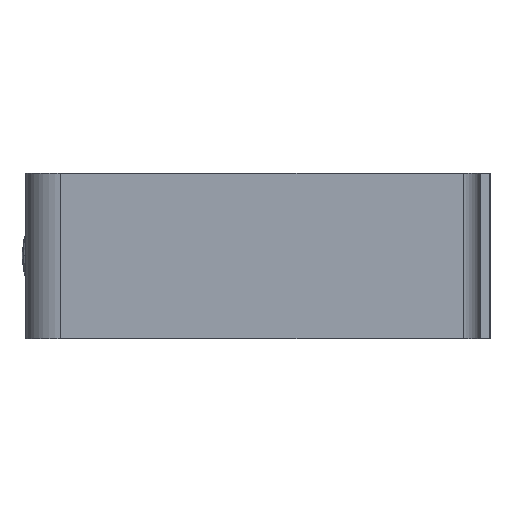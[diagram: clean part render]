
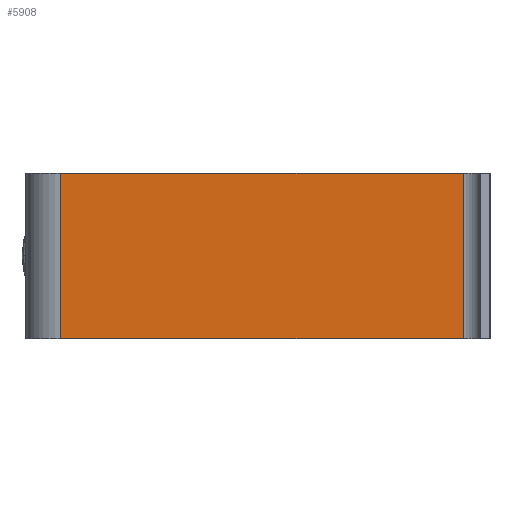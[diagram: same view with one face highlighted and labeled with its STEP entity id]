
A CAD part, left-side view. The second image highlights one B-rep face of the part: STEP entity #5908.
In plain terms, the highlighted planar face has unit normal (-0.999, 0.052, 0).
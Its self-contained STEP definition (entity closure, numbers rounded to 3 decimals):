
#204 = CARTESIAN_POINT ( 'NONE',  ( 14.001, 1.828, 18. ) ) ;
#565 = LINE ( 'NONE', #2636, #3979 ) ;
#720 = ORIENTED_EDGE ( 'NONE', *, *, #6244, .F. ) ;
#1271 = AXIS2_PLACEMENT_3D ( 'NONE', #6309, #4837, #4279 ) ;
#1280 = CARTESIAN_POINT ( 'NONE',  ( 14.001, 1.828, 0. ) ) ;
#1354 = DIRECTION ( 'NONE',  ( 0.052, 0.999, 0. ) ) ;
#1378 = VECTOR ( 'NONE', #3604, 1000. ) ;
#1583 = LINE ( 'NONE', #2188, #4569 ) ;
#1644 = EDGE_CURVE ( 'NONE', #5374, #5750, #6020, .T. ) ;
#1684 = ORIENTED_EDGE ( 'NONE', *, *, #3646, .T. ) ;
#1721 = ORIENTED_EDGE ( 'NONE', *, *, #1644, .F. ) ;
#1958 = CARTESIAN_POINT ( 'NONE',  ( 14.001, 1.828, 18. ) ) ;
#2054 = VERTEX_POINT ( 'NONE', #4247 ) ;
#2188 = CARTESIAN_POINT ( 'NONE',  ( 16.292, 45.544, 18. ) ) ;
#2443 = ORIENTED_EDGE ( 'NONE', *, *, #5651, .T. ) ;
#2636 = CARTESIAN_POINT ( 'NONE',  ( 14.001, 1.828, 0. ) ) ;
#2661 = VECTOR ( 'NONE', #1354, 1000. ) ;
#3103 = EDGE_LOOP ( 'NONE', ( #720, #1721, #1684, #2443 ) ) ;
#3383 = CARTESIAN_POINT ( 'NONE',  ( 16.292, 45.544, 18. ) ) ;
#3604 = DIRECTION ( 'NONE',  ( 0., 0., -1. ) ) ;
#3646 = EDGE_CURVE ( 'NONE', #5374, #5885, #4578, .T. ) ;
#3979 = VECTOR ( 'NONE', #6130, 1000. ) ;
#4238 = DIRECTION ( 'NONE',  ( 0., 0., -1. ) ) ;
#4247 = CARTESIAN_POINT ( 'NONE',  ( 16.292, 45.544, 0. ) ) ;
#4279 = DIRECTION ( 'NONE',  ( -0.052, -0.999, 0. ) ) ;
#4569 = VECTOR ( 'NONE', #4238, 1000. ) ;
#4578 = LINE ( 'NONE', #6281, #2661 ) ;
#4600 = FACE_OUTER_BOUND ( 'NONE', #3103, .T. ) ;
#4837 = DIRECTION ( 'NONE',  ( -0.999, 0.052, 0. ) ) ;
#5374 = VERTEX_POINT ( 'NONE', #1958 ) ;
#5651 = EDGE_CURVE ( 'NONE', #5885, #2054, #1583, .T. ) ;
#5750 = VERTEX_POINT ( 'NONE', #1280 ) ;
#5784 = PLANE ( 'NONE',  #1271 ) ;
#5885 = VERTEX_POINT ( 'NONE', #3383 ) ;
#5908 = ADVANCED_FACE ( 'NONE', ( #4600 ), #5784, .T. ) ;
#6020 = LINE ( 'NONE', #204, #1378 ) ;
#6130 = DIRECTION ( 'NONE',  ( 0.052, 0.999, 0. ) ) ;
#6244 = EDGE_CURVE ( 'NONE', #5750, #2054, #565, .T. ) ;
#6281 = CARTESIAN_POINT ( 'NONE',  ( 14.001, 1.828, 18. ) ) ;
#6309 = CARTESIAN_POINT ( 'NONE',  ( 14.001, 1.828, 18. ) ) ;
